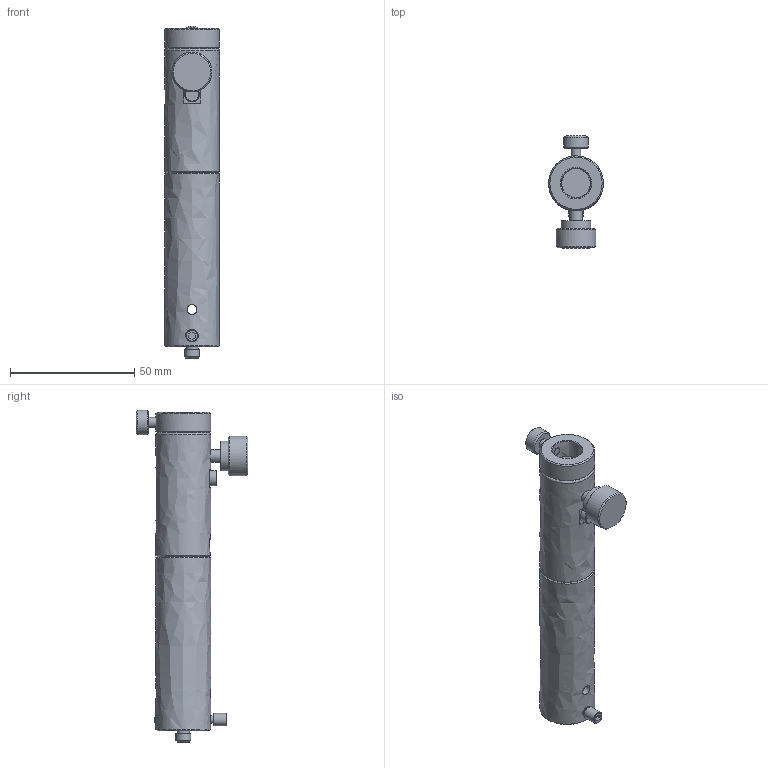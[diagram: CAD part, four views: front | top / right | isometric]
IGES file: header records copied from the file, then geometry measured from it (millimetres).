
Global section: file name: BRS-12-120-M6; native system: Autodesk Inventor 2021; preprocessor: unknown; author: e.nonaka; date: 20220914.143335; units: millimetre
Bounding box: 22 x 45 x 133.5 mm (x, y, z)
Volume: 34726.9 mm3; surface area: 16424.8 mm2
Topology: 1 solids, 1 shells, 83 faces, 179 edges, 118 vertices
Faces by surface type: bspline 83
